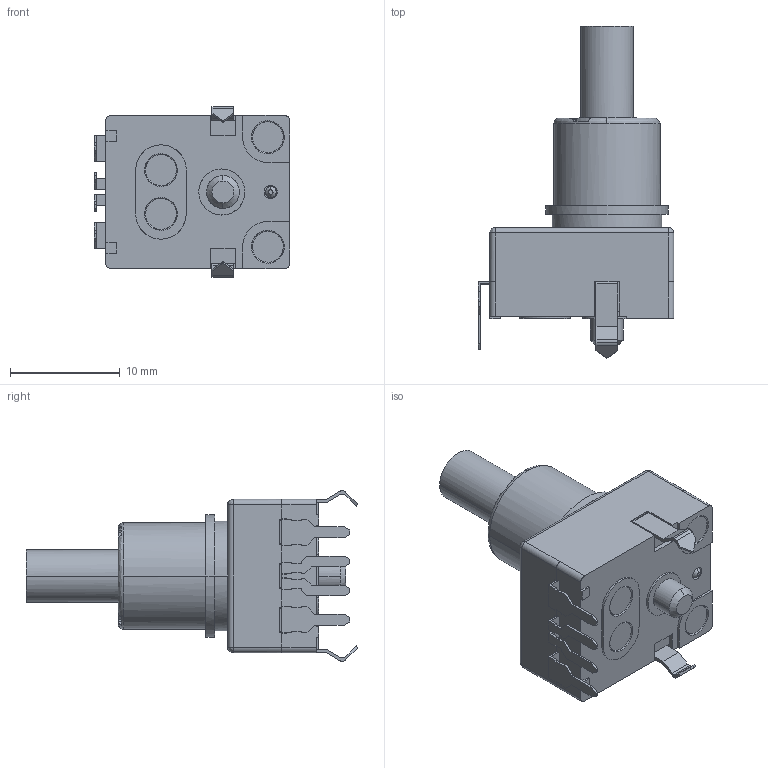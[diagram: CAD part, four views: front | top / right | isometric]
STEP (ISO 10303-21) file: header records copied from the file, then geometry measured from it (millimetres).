
FILE_DESCRIPTION (( 'STEP AP214' ), '1' );
FILE_NAME ('SPED220200_1228.STEP', '2017-12-27T23:04:11', ( 'user' ), ( 'Hewlett-Packard Company' ), 'SwSTEP 2.0', 'SolidWorks 2017', '' );
FILE_SCHEMA (( 'AUTOMOTIVE_DESIGN' ));
Length unit declared in the file: millimetre
Products named in the file (1): SPED220200_1228
Bounding box: 17.85 x 30.29 x 15.58 mm (x, y, z)
Volume: 2848.3 mm3; surface area: 1677.7 mm2
Topology: 1 solids, 1 shells, 300 faces, 847 edges, 562 vertices
Faces by surface type: plane 203, cylinder 71, cone 20, bspline 6
Entity records: 14563 total; most frequent: CARTESIAN_POINT 3795, ORIENTED_EDGE 1686, DIRECTION 1317, EDGE_CURVE 843, VECTOR 599, LINE 599, VERTEX_POINT 562, AXIS2_PLACEMENT_3D 359
